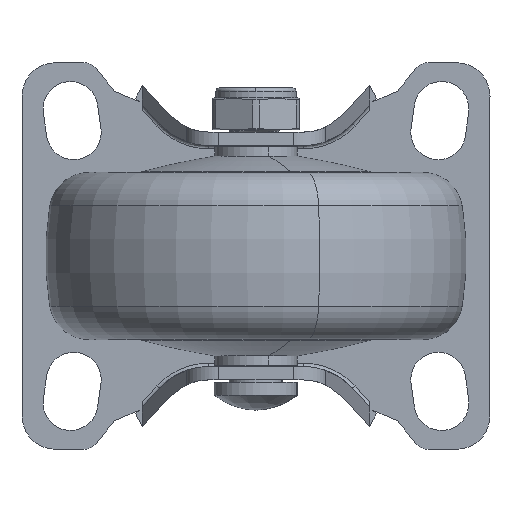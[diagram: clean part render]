
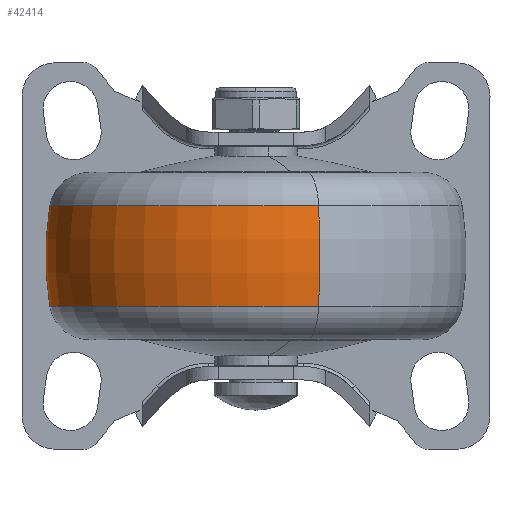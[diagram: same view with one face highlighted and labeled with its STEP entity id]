
A CAD part, front view. The second image highlights one B-rep face of the part: STEP entity #42414.
In plain terms, the highlighted toroidal (fillet/blend) face has major radius 13.5 mm and minor radius 45 mm.
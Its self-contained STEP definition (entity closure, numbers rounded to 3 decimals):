
#2291 = AXIS2_PLACEMENT_3D ( 'NONE', #79252, #18982, #13517 ) ;
#2818 = CARTESIAN_POINT ( 'NONE',  ( 0., 0., 0. ) ) ;
#3023 = DIRECTION ( 'NONE',  ( 0., 0., -1. ) ) ;
#5223 = CIRCLE ( 'NONE', #16636, 30.871 ) ;
#7794 = DIRECTION ( 'NONE',  ( -1., 0., 0. ) ) ;
#8555 = AXIS2_PLACEMENT_3D ( 'NONE', #13834, #47130, #7794 ) ;
#11879 = EDGE_LOOP ( 'NONE', ( #37581, #44618, #32505, #74376 ) ) ;
#13517 = DIRECTION ( 'NONE',  ( 1., 0., 0. ) ) ;
#13834 = CARTESIAN_POINT ( 'NONE',  ( 13.5, 0., 0. ) ) ;
#16636 = AXIS2_PLACEMENT_3D ( 'NONE', #69140, #62814, #69409 ) ;
#16803 = VERTEX_POINT ( 'NONE', #34220 ) ;
#17324 = EDGE_CURVE ( 'NONE', #16803, #37622, #80158, .T. ) ;
#18982 = DIRECTION ( 'NONE',  ( 0., 0., 1. ) ) ;
#21546 = AXIS2_PLACEMENT_3D ( 'NONE', #42644, #36873, #3023 ) ;
#31310 = EDGE_CURVE ( 'NONE', #52233, #33665, #73242, .T. ) ;
#32505 = ORIENTED_EDGE ( 'NONE', *, *, #31310, .T. ) ;
#33665 = VERTEX_POINT ( 'NONE', #40708 ) ;
#34220 = CARTESIAN_POINT ( 'NONE',  ( -30.871, 0., -7.5 ) ) ;
#36873 = DIRECTION ( 'NONE',  ( 0., -1., 0. ) ) ;
#37581 = ORIENTED_EDGE ( 'NONE', *, *, #17324, .F. ) ;
#37622 = VERTEX_POINT ( 'NONE', #64623 ) ;
#38538 = EDGE_CURVE ( 'NONE', #37622, #33665, #41287, .T. ) ;
#40708 = CARTESIAN_POINT ( 'NONE',  ( 30.871, 0., 7.5 ) ) ;
#41201 = TOROIDAL_SURFACE ( 'NONE', #81538, -13.5, 45. ) ;
#41287 = CIRCLE ( 'NONE', #2291, 30.871 ) ;
#41878 = DIRECTION ( 'NONE',  ( 1., 0., 0. ) ) ;
#42414 = ADVANCED_FACE ( 'NONE', ( #47377 ), #41201, .T. ) ;
#42644 = CARTESIAN_POINT ( 'NONE',  ( -13.5, 0., 0. ) ) ;
#43506 = EDGE_CURVE ( 'NONE', #16803, #52233, #5223, .T. ) ;
#44618 = ORIENTED_EDGE ( 'NONE', *, *, #43506, .T. ) ;
#47130 = DIRECTION ( 'NONE',  ( 0., 1., 0. ) ) ;
#47377 = FACE_OUTER_BOUND ( 'NONE', #11879, .T. ) ;
#50569 = CARTESIAN_POINT ( 'NONE',  ( 30.871, 0., -7.5 ) ) ;
#52233 = VERTEX_POINT ( 'NONE', #50569 ) ;
#55097 = DIRECTION ( 'NONE',  ( 0., 0., 1. ) ) ;
#62814 = DIRECTION ( 'NONE',  ( 0., 0., 1. ) ) ;
#64623 = CARTESIAN_POINT ( 'NONE',  ( -30.871, 0., 7.5 ) ) ;
#69140 = CARTESIAN_POINT ( 'NONE',  ( 0., 0., -7.5 ) ) ;
#69409 = DIRECTION ( 'NONE',  ( 1., 0., 0. ) ) ;
#73242 = CIRCLE ( 'NONE', #21546, 45. ) ;
#74376 = ORIENTED_EDGE ( 'NONE', *, *, #38538, .F. ) ;
#79252 = CARTESIAN_POINT ( 'NONE',  ( 0., 0., 7.5 ) ) ;
#80158 = CIRCLE ( 'NONE', #8555, 45. ) ;
#81538 = AXIS2_PLACEMENT_3D ( 'NONE', #2818, #55097, #41878 ) ;
